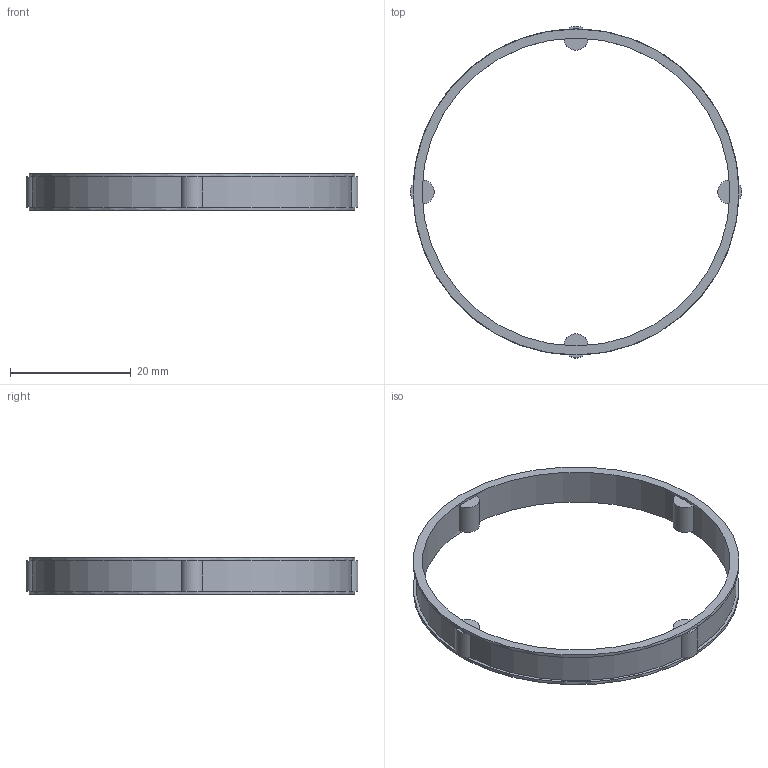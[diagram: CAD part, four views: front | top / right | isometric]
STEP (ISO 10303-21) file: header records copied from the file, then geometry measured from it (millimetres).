
FILE_DESCRIPTION(/* description */ (''),/* implementation_level */ '2;1');
FILE_NAME(/* name */ '303012 RL 453 - 4.stp',/* time_stamp */ '2016-11-10T15:20:41+01:00',/* author */ (''),/* organization */ (''),/* preprocessor_version */ 'ST-DEVELOPER v15',/* originating_system */ 'SIEMENS PLM Software NX 8.5',/* authorisation */ '');
FILE_SCHEMA (('CONFIG_CONTROL_DESIGN'));
Length unit declared in the file: millimetre
Products named in the file (1): ATE0000098_01
Bounding box: 54.99 x 54.99 x 6 mm (x, y, z)
Volume: 1238.3 mm3; surface area: 2728.9 mm2
Topology: 1 solids, 1 shells, 41 faces, 92 edges, 56 vertices
Faces by surface type: plane 26, cylinder 15
Full cylindrical faces by diameter (mm): 51 x1, 54 x2
Entity records: 1198 total; most frequent: DIRECTION 236, CARTESIAN_POINT 178, ORIENTED_EDGE 168, AXIS2_PLACEMENT_3D 110, EDGE_CURVE 84, CIRCLE 68, VERTEX_POINT 52, EDGE_LOOP 50
